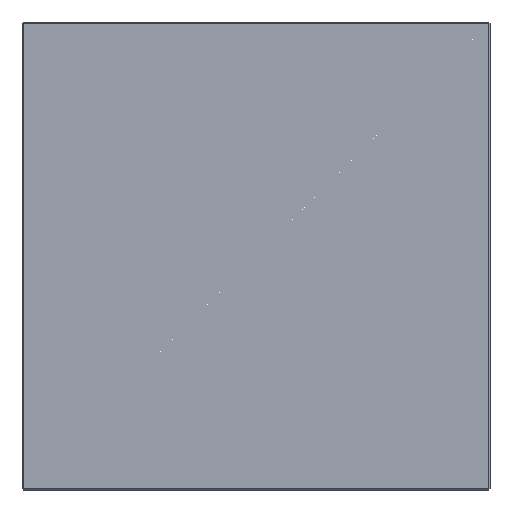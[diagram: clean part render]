
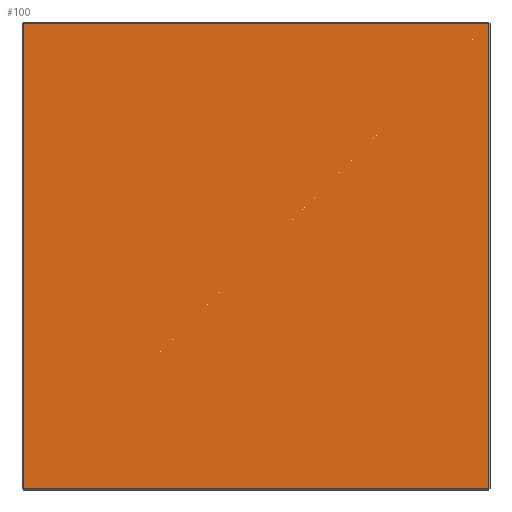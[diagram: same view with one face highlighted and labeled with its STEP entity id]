
A CAD part, front view. The second image highlights one B-rep face of the part: STEP entity #100.
In plain terms, the highlighted planar face has unit normal (0, -1, 0).
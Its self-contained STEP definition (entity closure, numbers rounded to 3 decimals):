
#2 = CARTESIAN_POINT ( 'NONE',  ( 172., 0., 0. ) ) ;
#7 = VERTEX_POINT ( 'NONE', #32 ) ;
#22 = FACE_OUTER_BOUND ( 'NONE', #316, .T. ) ;
#32 = CARTESIAN_POINT ( 'NONE',  ( -172., 0., 172. ) ) ;
#38 = LINE ( 'NONE', #582, #105 ) ;
#41 = EDGE_CURVE ( 'NONE', #224, #115, #162, .T. ) ;
#70 = AXIS2_PLACEMENT_3D ( 'NONE', #239, #448, #445 ) ;
#100 = ADVANCED_FACE ( 'NONE', ( #22 ), #550, .F. ) ;
#105 = VECTOR ( 'NONE', #385, 1000. ) ;
#115 = VERTEX_POINT ( 'NONE', #614 ) ;
#117 = DIRECTION ( 'NONE',  ( 1., 0., 0. ) ) ;
#123 = EDGE_CURVE ( 'NONE', #115, #7, #337, .T. ) ;
#134 = CARTESIAN_POINT ( 'NONE',  ( 0., 0., -172. ) ) ;
#162 = LINE ( 'NONE', #2, #609 ) ;
#203 = CARTESIAN_POINT ( 'NONE',  ( -172., 0., -172. ) ) ;
#224 = VERTEX_POINT ( 'NONE', #494 ) ;
#230 = ORIENTED_EDGE ( 'NONE', *, *, #407, .T. ) ;
#235 = ORIENTED_EDGE ( 'NONE', *, *, #123, .T. ) ;
#239 = CARTESIAN_POINT ( 'NONE',  ( 0., 0., 0. ) ) ;
#316 = EDGE_LOOP ( 'NONE', ( #369, #235, #318, #230 ) ) ;
#318 = ORIENTED_EDGE ( 'NONE', *, *, #481, .T. ) ;
#337 = LINE ( 'NONE', #420, #607 ) ;
#369 = ORIENTED_EDGE ( 'NONE', *, *, #41, .T. ) ;
#381 = VERTEX_POINT ( 'NONE', #203 ) ;
#385 = DIRECTION ( 'NONE',  ( 0., 0., -1. ) ) ;
#392 = DIRECTION ( 'NONE',  ( 0., 0., 1. ) ) ;
#407 = EDGE_CURVE ( 'NONE', #381, #224, #452, .T. ) ;
#420 = CARTESIAN_POINT ( 'NONE',  ( 0., 0., 172. ) ) ;
#445 = DIRECTION ( 'NONE',  ( 0., 0., 1. ) ) ;
#448 = DIRECTION ( 'NONE',  ( 0., 1., 0. ) ) ;
#452 = LINE ( 'NONE', #134, #536 ) ;
#481 = EDGE_CURVE ( 'NONE', #7, #381, #38, .T. ) ;
#492 = DIRECTION ( 'NONE',  ( -1., 0., 0. ) ) ;
#494 = CARTESIAN_POINT ( 'NONE',  ( 172., 0., -172. ) ) ;
#536 = VECTOR ( 'NONE', #117, 1000. ) ;
#550 = PLANE ( 'NONE',  #70 ) ;
#582 = CARTESIAN_POINT ( 'NONE',  ( -172., 0., 0. ) ) ;
#607 = VECTOR ( 'NONE', #492, 1000. ) ;
#609 = VECTOR ( 'NONE', #392, 1000. ) ;
#614 = CARTESIAN_POINT ( 'NONE',  ( 172., 0., 172. ) ) ;
